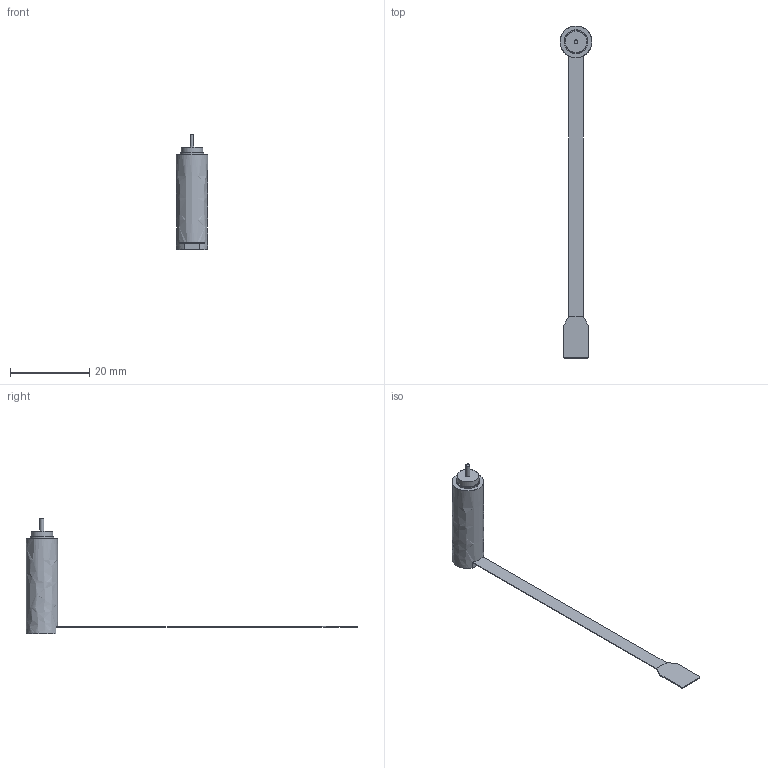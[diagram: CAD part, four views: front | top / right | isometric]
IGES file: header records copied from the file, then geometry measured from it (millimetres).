
Global section: file name: D:\Daten\0824KxxxB IEM3-xxxx.igs; native system: NX V7.5; preprocessor: SIEMENS PLM Software NX 7.5; author: DR. FRITZ FAULHABER GmbH & Co. KG; organization: DR. FRITZ FAULHABER GmbH & Co. KG; date: 20130128.121704; units: millimetre
Bounding box: 8 x 84 x 29.25 mm (x, y, z)
Surface area: 1387.9 mm2 (no closed solid volume)
Topology: 0 solids, 0 shells, 74 faces, 456 edges, 456 vertices
Faces by surface type: bspline 74
